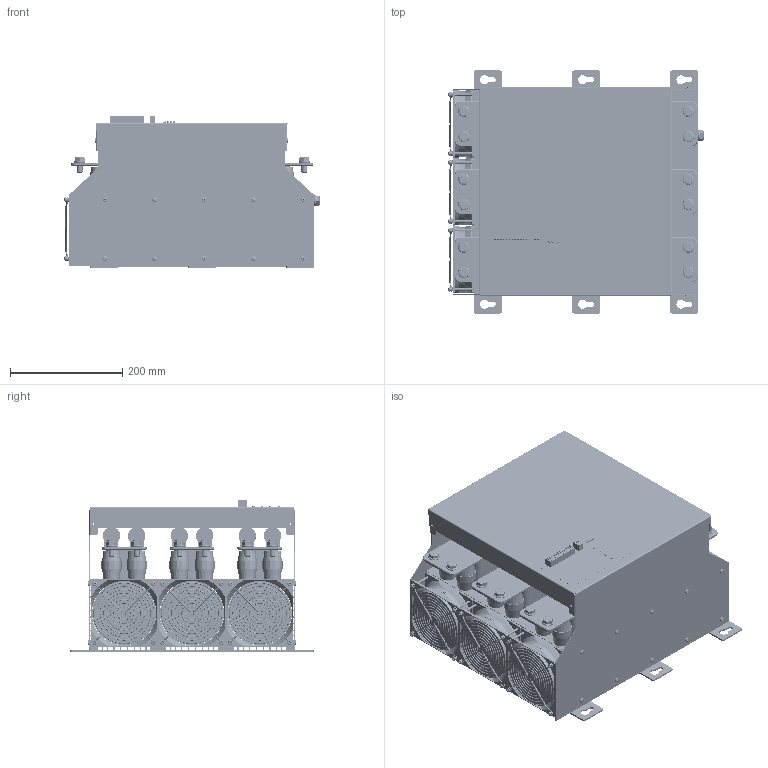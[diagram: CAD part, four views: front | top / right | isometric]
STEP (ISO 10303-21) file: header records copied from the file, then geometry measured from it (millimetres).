
FILE_DESCRIPTION(('STEP AP203'), '1');
FILE_NAME('ÒÐÌ-2Ì-450...580 RS485 ÒÐÌ-3Ì-450...580 RS485 ÒÐÌ-3ÌN-450...580 RS485', '2025-06-30T10:32:55', (''), ('ÎÎÎ "Ìåàíäð"'), 'C3D Converter', 'C3D Toolkit', '');
FILE_SCHEMA(('CONFIG_CONTROL_DESIGN'));
Length unit declared in the file: millimetre
Products named in the file (5): ТРМ
Assembly tree (27 placements, depth 2):
  ТРМ
    ТРМ
    ТРМ
    (unnamed)  x13
    (unnamed)  x12
Bounding box: 454.81 x 433 x 271.4 mm (x, y, z)
Volume: 13750555.1 mm3; surface area: 4266437.2 mm2
Topology: 27 solids, 47 shells, 8146 faces, 23895 edges, 15633 vertices
Faces by surface type: plane 4342, extrusion 1742, cylinder 1292, bspline 382, cone 182, torus 170, sphere 36
Full cylindrical faces by diameter (mm): 3 x4, 3.3 x4, 4 x40, 4.2 x24, 4.572 x24, 6 x4, 6.1 x4, 8 x50, 8.4 x12, 8.5 x1, 9 x16, 9.1 x1, 9.8 x1, 10 x37, 11.6 x12, 15.6 x13, 16 x24, 20 x19, 28.5 x6, 31 x12, 38.1 x3, 114 x3, 115.062 x3, 118.662 x3
Entity records: 390443 total; most frequent: CARTESIAN_POINT 143187, ORIENTED_EDGE 42804, DIRECTION 31680, EDGE_CURVE 21402, VECTOR 14426, VERTEX_POINT 14170, LINE 12684, AXIS2_PLACEMENT_3D 8627
